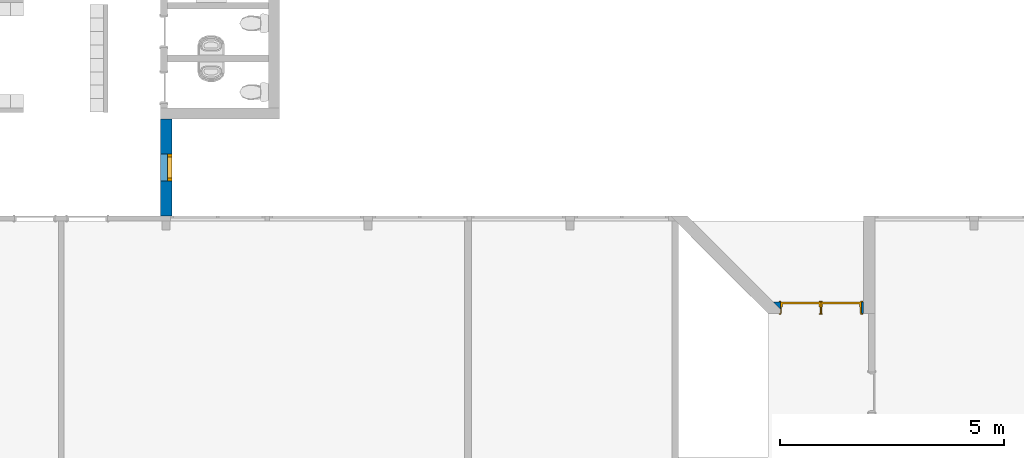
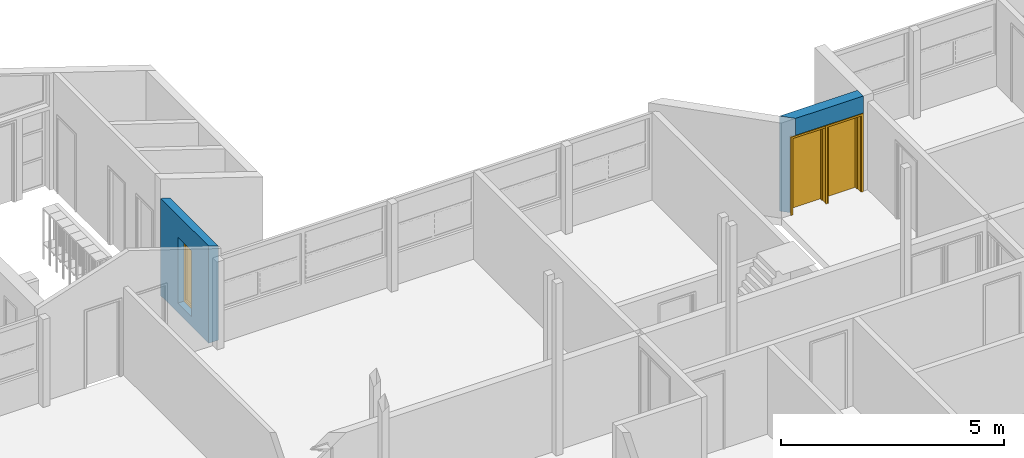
# One storey, part 4 of 48: 2 doors, 2 walls, 1 window, 3 openings.
"""IFC2X3 building model written with IfcOpenShell, lengths in millimetres."""

from ifc_helpers import new_model, entity, si_unit, converted_unit, derived_unit, money_unit, direction, frame, origin_with_axes, place, context, subcontext, project, spatial, open_shell, faceted_brep, surface_model, source, transform, mapped, material, type_object, element, fill, save


model = new_model("IFC2X3")

# Units and contexts
model_context = context("Model", 3, precision=0.01, world=origin_with_axes(), true_north=direction((0.0, 1.0)))
body_context = subcontext(model_context, "Body", "Model", "MODEL_VIEW")
ifc_project = project(units=[si_unit("LENGTHUNIT", "METRE", prefix="MILLI"), si_unit("AREAUNIT", "SQUARE_METRE"), si_unit("VOLUMEUNIT", "CUBIC_METRE"), converted_unit("PLANEANGLEUNIT", "DEGREE", entity("IfcPlaneAngleMeasure", 0.0174532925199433), si_unit("PLANEANGLEUNIT", "RADIAN"), dimensions=[0, 0, 0, 0, 0, 0, 0]), money_unit("USD"), converted_unit("TIMEUNIT", "Year", entity("IfcTimeMeasure", 31557600.0), si_unit("TIMEUNIT", "SECOND"), dimensions=[0, 0, 1, 0, 0, 0, 0]), si_unit("MASSUNIT", "GRAM", prefix="KILO"), si_unit("THERMODYNAMICTEMPERATUREUNIT", "DEGREE_CELSIUS"), si_unit("LUMINOUSINTENSITYUNIT", "LUMEN"), si_unit("ENERGYUNIT", "JOULE", prefix="MEGA"), derived_unit("THERMALCONDUCTANCEUNIT", [(si_unit("POWERUNIT", "WATT"), 1), (si_unit("LENGTHUNIT", "METRE"), -1), (si_unit("THERMODYNAMICTEMPERATUREUNIT", "KELVIN"), -1)]), derived_unit("SPECIFICHEATCAPACITYUNIT", [(si_unit("ENERGYUNIT", "JOULE"), 1), (si_unit("MASSUNIT", "GRAM", prefix="KILO"), -1), (si_unit("THERMODYNAMICTEMPERATUREUNIT", "KELVIN"), -1)]), derived_unit("MASSDENSITYUNIT", [(si_unit("MASSUNIT", "GRAM", prefix="KILO"), 1), (si_unit("VOLUMEUNIT", "CUBIC_METRE"), -1)])], contexts=[model_context])

# Site, building, storey
site_placement = place(None, origin_with_axes())
site = spatial("IfcSite", under=ifc_project, at=site_placement, Name="Site", CompositionType="ELEMENT")
building_placement = place(site_placement, origin_with_axes())
building = spatial("IfcBuilding", under=site, at=building_placement, Name="Building", CompositionType="ELEMENT")
storey_placement = place(building_placement, frame((0.0, 0.0, 3300.0), z_axis=(0.0, 0.0, 1.0), x_axis=(1.0, 0.0, 0.0)))
storey = spatial("IfcBuildingStorey", under=building, at=storey_placement, Name="1 ETG", CompositionType="ELEMENT", Elevation=3300.0)

# Wall, openings, doors
ifc_material_1 = material(Name="GENERIC - STRUCTURAL")
wall_type_1 = type_object("IfcWallType", Name="GENERIC - STRUCTURAL 260", PredefinedType="NOTDEFINED")
wall_1_placement = place(storey_placement, frame((24540.26664685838, 19998.63460103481, 0.0), z_axis=(0.0, 0.0, 1.0), x_axis=(-1.0, 0.0, 0.0)))
wall_1 = element("IfcWall", 1, at=wall_1_placement, inside=storey, type_object=wall_type_1, material=ifc_material_1, Name="SW - 001", context=body_context, shape_type="Brep", body=[
    faceted_brep([(947.9758318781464, 260.0000000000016, 2100.0), (947.9758318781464, 0.0, 2100.0), (47.9758318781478, 0.0, 2100.0), (47.9758318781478, 260.0000000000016, 2100.0), (1847.975831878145, 0.0, 2100.0), (1754.417789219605, 260.0000000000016, 2100.0), (1847.975831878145, 166.4419573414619, 2100.0), (1847.975831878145, 0.0, 0.0), (2014.417789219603, 0.0, 0.0), (2014.417789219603, 0.0, 2600.0), (0.0, 0.0, 2600.0), (0.0, 0.0, 0.0), (47.9758318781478, 0.0, 0.0), (47.9758318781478, 260.0000000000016, 0.0), (0.0004341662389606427, 260.0000000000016, 0.0), (0.0004341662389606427, 260.0000000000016, 2600.0), (1754.417789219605, 260.0000000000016, 2600.0), (1847.975831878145, 166.4419573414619, 0.0)], [[[0, 1, 2, 3]], [[4, 1, 0, 5, 6]], [[4, 7, 8, 9, 10, 11, 12, 2, 1]], [[3, 2, 12, 13]], [[5, 0, 3, 13, 14, 15, 16]], [[6, 5, 16, 9, 8, 17]], [[7, 4, 6, 17]], [[7, 17, 8]], [[9, 16, 15, 10]], [[15, 14, 11, 10]], [[14, 13, 12, 11]]]),
])
opening_1_placement = place(wall_1_placement, frame((1397.975831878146, 0.0, 0.0), z_axis=(0.0, 0.0, 1.0), x_axis=(1.0, 0.0, 0.0)))
opening_1 = element("IfcOpeningElement", 2, at=opening_1_placement, cuts=wall_1, Name="DOO - 002", context=body_context, shape_type="Brep", body=[
    faceted_brep([(449.9999999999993, -1.000000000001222, 2100.0), (-449.9999999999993, -1.000000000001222, 2100.0), (-449.9999999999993, -1.000000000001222, 0.0), (449.9999999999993, -1.000000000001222, 0.0), (486.9999999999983, -1.000000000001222, 0.0), (486.9999999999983, -1.000000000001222, 2137.0), (-486.9999999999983, -1.000000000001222, 2137.0), (-486.9999999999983, -1.000000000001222, 0.0), (449.9999999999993, 0.0, 0.0), (-449.9999999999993, 0.0, 0.0), (-449.9999999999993, 260.0000000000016, 0.0), (-449.9999999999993, 261.0000000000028, 0.0), (449.9999999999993, 261.0000000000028, 0.0), (449.9999999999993, 260.0000000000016, 0.0), (486.9999999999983, 0.0, 0.0), (486.9999999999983, 0.0, 2137.0), (-486.9999999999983, 0.0, 2137.0), (-486.9999999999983, 0.0, 0.0), (-449.9999999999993, 0.0, 2100.0), (-449.9999999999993, 260.0000000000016, 2100.0), (-486.9999999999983, 260.0000000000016, 0.0), (-486.9999999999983, 261.0000000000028, 0.0), (-486.9999999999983, 261.0000000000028, 2137.0), (486.9999999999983, 261.0000000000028, 2137.0), (486.9999999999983, 261.0000000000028, 0.0), (486.9999999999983, 260.0000000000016, 0.0), (449.9999999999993, 0.0, 2100.0), (449.9999999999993, 260.0000000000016, 2100.0), (486.9999999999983, 260.0000000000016, 2137.0), (-486.9999999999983, 260.0000000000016, 2137.0)], [[[0, 1, 2, 3]], [[2, 1, 0, 3, 4, 5, 6, 7]], [[8, 3, 2, 9, 10, 11, 12, 13]], [[3, 8, 14, 4]], [[14, 15, 5, 4]], [[15, 16, 6, 5]], [[16, 17, 7, 6]], [[9, 2, 7, 17]], [[9, 18, 19, 10]], [[11, 10, 20, 21]], [[12, 11, 21, 22, 23, 24]], [[13, 12, 24, 25]], [[26, 8, 13, 27]], [[26, 18, 9, 17, 16, 15, 14, 8]], [[18, 26, 27, 19]], [[10, 19, 27, 13, 25, 28, 29, 20]], [[20, 29, 22, 21]], [[29, 28, 23, 22]], [[28, 25, 24, 23]]]),
])
opening_2_placement = place(wall_1_placement, frame((497.9758318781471, 0.0, 0.0), z_axis=(0.0, 0.0, 1.0), x_axis=(1.0, 0.0, 0.0)))
opening_2 = element("IfcOpeningElement", 3, at=opening_2_placement, cuts=wall_1, Name="DOO - 002", context=body_context, shape_type="Brep", body=[
    faceted_brep([(449.9999999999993, -1.000000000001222, 2100.0), (-449.9999999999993, -1.000000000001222, 2100.0), (-449.9999999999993, -1.000000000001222, 0.0), (449.9999999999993, -1.000000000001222, 0.0), (486.9999999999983, -1.000000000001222, 0.0), (486.9999999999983, -1.000000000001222, 2137.0), (-486.9999999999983, -1.000000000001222, 2137.0), (-486.9999999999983, -1.000000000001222, 0.0), (449.9999999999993, 0.0, 0.0), (-449.9999999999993, 0.0, 0.0), (-449.9999999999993, 260.0000000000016, 0.0), (-449.9999999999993, 261.0000000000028, 0.0), (449.9999999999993, 261.0000000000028, 0.0), (449.9999999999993, 260.0000000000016, 0.0), (486.9999999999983, 0.0, 0.0), (486.9999999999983, 0.0, 2137.0), (-486.9999999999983, 0.0, 2137.0), (-486.9999999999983, 0.0, 0.0), (-449.9999999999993, 0.0, 2100.0), (-449.9999999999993, 260.0000000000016, 2100.0), (-486.9999999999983, 260.0000000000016, 0.0), (-486.9999999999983, 261.0000000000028, 0.0), (-486.9999999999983, 261.0000000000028, 2137.0), (486.9999999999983, 261.0000000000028, 2137.0), (486.9999999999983, 261.0000000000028, 0.0), (486.9999999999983, 260.0000000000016, 0.0), (449.9999999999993, 0.0, 2100.0), (449.9999999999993, 260.0000000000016, 2100.0), (486.9999999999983, 260.0000000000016, 2137.0), (-486.9999999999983, 260.0000000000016, 2137.0)], [[[0, 1, 2, 3]], [[2, 1, 0, 3, 4, 5, 6, 7]], [[8, 3, 2, 9, 10, 11, 12, 13]], [[3, 8, 14, 4]], [[14, 15, 5, 4]], [[15, 16, 6, 5]], [[16, 17, 7, 6]], [[9, 2, 7, 17]], [[9, 18, 19, 10]], [[11, 10, 20, 21]], [[12, 11, 21, 22, 23, 24]], [[13, 12, 24, 25]], [[26, 8, 13, 27]], [[26, 18, 9, 17, 16, 15, 14, 8]], [[18, 26, 27, 19]], [[10, 19, 27, 13, 25, 28, 29, 20]], [[20, 29, 22, 21]], [[29, 28, 23, 22]], [[28, 25, 24, 23]]]),
])
door_style_1 = type_object("IfcDoorStyle", Name="Dør", ConstructionType="NOTDEFINED", OperationType="SINGLE_SWING_RIGHT", ParameterTakesPrecedence=False, Sizeable=False)
shared_shape_1 = source(origin_with_axes(), body_context, "Body", "Brep", [
    faceted_brep([(-450.0, -115.0, 0.0), (-425.0, -115.0, 0.0), (-425.0, -260.0, 0.0), (-450.0, -260.0, 0.0), (-450.0, -115.0000000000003, 2100.0), (-425.0, -115.0000000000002, 2075.0), (-425.0, -260.0000000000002, 2075.0), (-450.0, -260.0000000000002, 2100.0)], [[[0, 1, 2, 3]], [[0, 4, 5, 1]], [[1, 5, 6, 2]], [[3, 2, 6, 7]], [[4, 0, 3, 7]], [[5, 4, 7, 6]]]),
    faceted_brep([(450.0, -115.0000000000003, 2100.0), (425.0, -115.0000000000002, 2075.0), (425.0, -260.0000000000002, 2075.0), (450.0, -260.0000000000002, 2100.0), (450.0, -115.0, 0.0), (425.0, -115.0, 0.0), (425.0, -260.0, 0.0), (450.0, -260.0, 0.0)], [[[0, 1, 2, 3]], [[0, 4, 5, 1]], [[1, 5, 6, 2]], [[3, 2, 6, 7]], [[4, 0, 3, 7]], [[5, 4, 7, 6]]]),
    faceted_brep([(-425.0, -115.0000000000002, 2075.0), (425.0, -115.0000000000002, 2075.0), (425.0, -260.0000000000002, 2075.0), (-425.0, -260.0000000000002, 2075.0), (-450.0, -115.0000000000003, 2100.0), (450.0, -115.0000000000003, 2100.0), (450.0, -260.0000000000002, 2100.0), (-450.0, -260.0000000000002, 2100.0)], [[[0, 1, 2, 3]], [[0, 4, 5, 1]], [[1, 5, 6, 2]], [[3, 2, 6, 7]], [[4, 0, 3, 7]], [[5, 4, 7, 6]]]),
    faceted_brep([(-487.0, -279.0, 0.0), (-487.0, -260.0, 0.0), (-437.0, -260.0, 0.0), (-437.0, -279.0, 0.0), (-487.0, -279.0000000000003, 2137.0), (-487.0, -260.0000000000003, 2137.0), (-437.0, -260.0000000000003, 2087.0), (-437.0, -279.0000000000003, 2087.0)], [[[0, 1, 2, 3]], [[4, 5, 1, 0]], [[1, 5, 6, 2]], [[3, 2, 6, 7]], [[0, 3, 7, 4]], [[7, 6, 5, 4]]]),
    faceted_brep([(487.0, -279.0000000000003, 2137.0), (487.0, -260.0000000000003, 2137.0), (437.0, -260.0000000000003, 2087.0), (437.0, -279.0000000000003, 2087.0), (487.0, -279.0, 0.0), (487.0, -260.0, 0.0), (437.0, -260.0, 0.0), (437.0, -279.0, 0.0)], [[[0, 1, 2, 3]], [[4, 5, 1, 0]], [[1, 5, 6, 2]], [[3, 2, 6, 7]], [[0, 3, 7, 4]], [[7, 6, 5, 4]]]),
    faceted_brep([(-487.0, -279.0000000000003, 2137.0), (-487.0, -260.0000000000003, 2137.0), (-437.0, -260.0000000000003, 2087.0), (-437.0, -279.0000000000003, 2087.0), (487.0, -279.0000000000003, 2137.0), (487.0, -260.0000000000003, 2137.0), (437.0, -260.0000000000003, 2087.0), (437.0, -279.0000000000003, 2087.0)], [[[0, 1, 2, 3]], [[4, 5, 1, 0]], [[1, 5, 6, 2]], [[3, 2, 6, 7]], [[0, 3, 7, 4]], [[7, 6, 5, 4]]]),
    faceted_brep([(-487.0, 19.0, 0.0), (-437.0, 19.0, 0.0), (-437.0, 0.0, 0.0), (-487.0, 0.0, 0.0), (-487.0, 18.99999999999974, 2137.0), (-437.0, 18.99999999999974, 2087.0), (-437.0, 0.0, 2087.0), (-487.0, 0.0, 2137.0)], [[[0, 1, 2, 3]], [[0, 4, 5, 1]], [[1, 5, 6, 2]], [[3, 2, 6, 7]], [[4, 0, 3, 7]], [[5, 4, 7, 6]]]),
    faceted_brep([(487.0, 18.99999999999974, 2137.0), (437.0, 18.99999999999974, 2087.0), (437.0, 0.0, 2087.0), (487.0, 0.0, 2137.0), (487.0, 19.0, 0.0), (437.0, 19.0, 0.0), (437.0, 0.0, 0.0), (487.0, 0.0, 0.0)], [[[0, 1, 2, 3]], [[0, 4, 5, 1]], [[1, 5, 6, 2]], [[3, 2, 6, 7]], [[4, 0, 3, 7]], [[5, 4, 7, 6]]]),
    faceted_brep([(-487.0, 18.99999999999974, 2137.0), (-437.0, 18.99999999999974, 2087.0), (-437.0, 0.0, 2087.0), (-487.0, 0.0, 2137.0), (487.0, 18.99999999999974, 2137.0), (437.0, 18.99999999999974, 2087.0), (437.0, 0.0, 2087.0), (487.0, 0.0, 2137.0)], [[[0, 1, 2, 3]], [[0, 4, 5, 1]], [[1, 5, 6, 2]], [[3, 2, 6, 7]], [[4, 0, 3, 7]], [[5, 4, 7, 6]]]),
    faceted_brep([(-450.0, 0.0, 0.0), (-410.0000000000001, 0.0, 0.0), (-410.0000000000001, -115.0, 0.0), (-450.0, -115.0, 0.0), (-450.0, 0.0, 2060.0), (-410.0000000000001, 0.0, 2060.0), (-410.0000000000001, -115.0, 2060.0), (-450.0, -115.0, 2060.0)], [[[0, 1, 2, 3]], [[0, 4, 5, 1]], [[1, 5, 6, 2]], [[3, 2, 6, 7]], [[4, 0, 3, 7]], [[5, 4, 7, 6]]]),
    faceted_brep([(450.0, 0.0, 0.0), (450.0, 0.0, 2060.0), (450.0, -115.0, 2060.0), (450.0, -115.0, 0.0), (410.0000000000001, 0.0, 0.0), (410.0000000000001, 0.0, 2060.0), (410.0000000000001, -115.0, 2060.0), (410.0000000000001, -115.0, 0.0)], [[[0, 1, 2, 3]], [[0, 4, 5, 1]], [[1, 5, 6, 2]], [[3, 2, 6, 7]], [[4, 0, 3, 7]], [[5, 4, 7, 6]]]),
    faceted_brep([(-450.0, 0.0, 2100.0), (-450.0, 0.0, 2060.0), (-450.0, -115.0, 2060.0), (-450.0, -115.0, 2100.0), (450.0, 0.0, 2100.0), (450.0, 0.0, 2060.0), (410.0000000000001, 0.0, 2060.0), (-410.0000000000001, 0.0, 2060.0), (-410.0000000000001, -115.0, 2060.0), (410.0000000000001, -115.0, 2060.0), (450.0, -115.0, 2060.0), (450.0, -115.0, 2100.0)], [[[0, 1, 2, 3]], [[0, 4, 5, 6, 7, 1]], [[1, 7, 8, 2]], [[3, 2, 8, 9, 10, 11]], [[4, 0, 3, 11]], [[5, 4, 11, 10]], [[6, 5, 10, 9]], [[7, 6, 9, 8]]]),
    faceted_brep([(409.9999999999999, 0.0, 0.0), (409.9999999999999, -40.0, 0.0), (-410.0000000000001, -40.0, 0.0), (-410.0000000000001, 0.0, 0.0), (409.9999999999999, 0.0, 2060.0), (409.9999999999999, -40.00000000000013, 2060.0), (-410.0000000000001, -40.00000000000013, 2060.0), (-410.0000000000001, 0.0, 2060.0)], [[[0, 1, 2, 3]], [[4, 5, 1, 0]], [[1, 5, 6, 2]], [[3, 2, 6, 7]], [[0, 3, 7, 4]], [[7, 6, 5, 4]]]),
])
door_1_placement = place(opening_2_placement, frame((449.9999999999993, 0.0, 0.0), z_axis=(0.0, 0.0, 1.0), x_axis=(-1.0, 0.0, 0.0)))
door_1 = element("IfcDoor", 4, at=door_1_placement, inside=storey, type_object=door_style_1, Name="DOO - 002", ObjectType="DOOR", OverallHeight=2100.0, OverallWidth=900.0, context=body_context, shape_type="MappedRepresentation", body=[
    mapped(shared_shape_1, transform((449.9999999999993, 0.0, 0.0))),
])
fill(opening_2, door_1)
door_style_2 = type_object("IfcDoorStyle", Name="Dør", ConstructionType="NOTDEFINED", OperationType="SINGLE_SWING_LEFT", ParameterTakesPrecedence=False, Sizeable=False)
shared_shape_2 = source(origin_with_axes(), body_context, "Body", "Brep", [
    faceted_brep([(450.0, -115.0, 0.0), (450.0, -260.0, 0.0), (425.0, -260.0, 0.0), (425.0, -115.0, 0.0), (450.0, -115.0000000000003, 2100.0), (450.0, -260.0000000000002, 2100.0), (425.0, -260.0000000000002, 2075.0), (425.0, -115.0000000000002, 2075.0)], [[[0, 1, 2, 3]], [[4, 5, 1, 0]], [[1, 5, 6, 2]], [[3, 2, 6, 7]], [[0, 3, 7, 4]], [[7, 6, 5, 4]]]),
    faceted_brep([(-450.0, -115.0000000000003, 2100.0), (-450.0, -260.0000000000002, 2100.0), (-425.0, -260.0000000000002, 2075.0), (-425.0, -115.0000000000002, 2075.0), (-450.0, -115.0, 0.0), (-450.0, -260.0, 0.0), (-425.0, -260.0, 0.0), (-425.0, -115.0, 0.0)], [[[0, 1, 2, 3]], [[4, 5, 1, 0]], [[1, 5, 6, 2]], [[3, 2, 6, 7]], [[0, 3, 7, 4]], [[7, 6, 5, 4]]]),
    faceted_brep([(425.0, -115.0000000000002, 2075.0), (425.0, -260.0000000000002, 2075.0), (-425.0, -260.0000000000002, 2075.0), (-425.0, -115.0000000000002, 2075.0), (450.0, -115.0000000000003, 2100.0), (450.0, -260.0000000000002, 2100.0), (-450.0, -260.0000000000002, 2100.0), (-450.0, -115.0000000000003, 2100.0)], [[[0, 1, 2, 3]], [[4, 5, 1, 0]], [[1, 5, 6, 2]], [[3, 2, 6, 7]], [[0, 3, 7, 4]], [[7, 6, 5, 4]]]),
    faceted_brep([(487.0, -279.0, 0.0), (437.0, -279.0, 0.0), (437.0, -260.0, 0.0), (487.0, -260.0, 0.0), (487.0, -279.0000000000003, 2137.0), (437.0, -279.0000000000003, 2087.0), (437.0, -260.0000000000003, 2087.0), (487.0, -260.0000000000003, 2137.0)], [[[0, 1, 2, 3]], [[0, 4, 5, 1]], [[1, 5, 6, 2]], [[3, 2, 6, 7]], [[4, 0, 3, 7]], [[5, 4, 7, 6]]]),
    faceted_brep([(-487.0, -279.0000000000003, 2137.0), (-437.0, -279.0000000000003, 2087.0), (-437.0, -260.0000000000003, 2087.0), (-487.0, -260.0000000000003, 2137.0), (-487.0, -279.0, 0.0), (-437.0, -279.0, 0.0), (-437.0, -260.0, 0.0), (-487.0, -260.0, 0.0)], [[[0, 1, 2, 3]], [[0, 4, 5, 1]], [[1, 5, 6, 2]], [[3, 2, 6, 7]], [[4, 0, 3, 7]], [[5, 4, 7, 6]]]),
    faceted_brep([(487.0, -279.0000000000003, 2137.0), (437.0, -279.0000000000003, 2087.0), (437.0, -260.0000000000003, 2087.0), (487.0, -260.0000000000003, 2137.0), (-487.0, -279.0000000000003, 2137.0), (-437.0, -279.0000000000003, 2087.0), (-437.0, -260.0000000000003, 2087.0), (-487.0, -260.0000000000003, 2137.0)], [[[0, 1, 2, 3]], [[0, 4, 5, 1]], [[1, 5, 6, 2]], [[3, 2, 6, 7]], [[4, 0, 3, 7]], [[5, 4, 7, 6]]]),
    faceted_brep([(487.0, 19.0, 0.0), (487.0, 0.0, 0.0), (437.0, 0.0, 0.0), (437.0, 19.0, 0.0), (487.0, 18.99999999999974, 2137.0), (487.0, 0.0, 2137.0), (437.0, 0.0, 2087.0), (437.0, 18.99999999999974, 2087.0)], [[[0, 1, 2, 3]], [[4, 5, 1, 0]], [[1, 5, 6, 2]], [[3, 2, 6, 7]], [[0, 3, 7, 4]], [[7, 6, 5, 4]]]),
    faceted_brep([(-487.0, 18.99999999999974, 2137.0), (-487.0, 0.0, 2137.0), (-437.0, 0.0, 2087.0), (-437.0, 18.99999999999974, 2087.0), (-487.0, 19.0, 0.0), (-487.0, 0.0, 0.0), (-437.0, 0.0, 0.0), (-437.0, 19.0, 0.0)], [[[0, 1, 2, 3]], [[4, 5, 1, 0]], [[1, 5, 6, 2]], [[3, 2, 6, 7]], [[0, 3, 7, 4]], [[7, 6, 5, 4]]]),
    faceted_brep([(487.0, 18.99999999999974, 2137.0), (487.0, 0.0, 2137.0), (437.0, 0.0, 2087.0), (437.0, 18.99999999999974, 2087.0), (-487.0, 18.99999999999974, 2137.0), (-487.0, 0.0, 2137.0), (-437.0, 0.0, 2087.0), (-437.0, 18.99999999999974, 2087.0)], [[[0, 1, 2, 3]], [[4, 5, 1, 0]], [[1, 5, 6, 2]], [[3, 2, 6, 7]], [[0, 3, 7, 4]], [[7, 6, 5, 4]]]),
    faceted_brep([(450.0, 0.0, 0.0), (450.0, -115.0, 0.0), (410.0000000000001, -115.0, 0.0), (410.0000000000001, 0.0, 0.0), (450.0, 0.0, 2060.0), (450.0, -115.0, 2060.0), (410.0000000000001, -115.0, 2060.0), (410.0000000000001, 0.0, 2060.0)], [[[0, 1, 2, 3]], [[4, 5, 1, 0]], [[1, 5, 6, 2]], [[3, 2, 6, 7]], [[0, 3, 7, 4]], [[7, 6, 5, 4]]]),
    faceted_brep([(-450.0, 0.0, 0.0), (-450.0, -115.0, 0.0), (-450.0, -115.0, 2060.0), (-450.0, 0.0, 2060.0), (-410.0000000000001, 0.0, 0.0), (-410.0000000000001, -115.0, 0.0), (-410.0000000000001, -115.0, 2060.0), (-410.0000000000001, 0.0, 2060.0)], [[[0, 1, 2, 3]], [[4, 5, 1, 0]], [[1, 5, 6, 2]], [[3, 2, 6, 7]], [[0, 3, 7, 4]], [[7, 6, 5, 4]]]),
    faceted_brep([(450.0, 0.0, 2100.0), (450.0, -115.0, 2100.0), (450.0, -115.0, 2060.0), (450.0, 0.0, 2060.0), (-450.0, 0.0, 2100.0), (-450.0, -115.0, 2100.0), (-450.0, -115.0, 2060.0), (-410.0000000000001, -115.0, 2060.0), (410.0000000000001, -115.0, 2060.0), (410.0000000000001, 0.0, 2060.0), (-410.0000000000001, 0.0, 2060.0), (-450.0, 0.0, 2060.0)], [[[0, 1, 2, 3]], [[4, 5, 1, 0]], [[1, 5, 6, 7, 8, 2]], [[3, 2, 8, 9]], [[0, 3, 9, 10, 11, 4]], [[11, 6, 5, 4]], [[10, 7, 6, 11]], [[9, 8, 7, 10]]]),
    faceted_brep([(-409.9999999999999, 0.0, 0.0), (410.0000000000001, 0.0, 0.0), (410.0000000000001, -40.0, 0.0), (-409.9999999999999, -40.0, 0.0), (-409.9999999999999, 0.0, 2060.0), (410.0000000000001, 0.0, 2060.0), (410.0000000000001, -40.00000000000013, 2060.0), (-409.9999999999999, -40.00000000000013, 2060.0)], [[[0, 1, 2, 3]], [[0, 4, 5, 1]], [[1, 5, 6, 2]], [[3, 2, 6, 7]], [[4, 0, 3, 7]], [[5, 4, 7, 6]]]),
])
door_2_placement = place(opening_1_placement, frame((449.9999999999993, 0.0, 0.0), z_axis=(0.0, 0.0, 1.0), x_axis=(-1.0, 0.0, 0.0)))
door_2 = element("IfcDoor", 5, at=door_2_placement, inside=storey, type_object=door_style_2, Name="DOO - 002", ObjectType="DOOR", OverallHeight=2100.0, OverallWidth=900.0, context=body_context, shape_type="MappedRepresentation", body=[
    mapped(shared_shape_2, transform((449.9999999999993, 0.0, 0.0))),
])
fill(opening_1, door_2)

# Wall, opening, window
ifc_material_2 = material(Name="GENERIC - INTERNAL FILLER")
wall_type_2 = type_object("IfcWallType", Name="GENERIC - INTERNAL FILLER 250", PredefinedType="NOTDEFINED")
wall_2_placement = place(storey_placement, frame((9000.002090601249, 24199.73665493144, 0.0), z_axis=(0.0, 0.0, 1.0), x_axis=(-9.170287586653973e-07, -0.9999999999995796, 0.0)))
wall_2 = element("IfcWall", 6, at=wall_2_placement, inside=storey, type_object=wall_type_2, material=ifc_material_2, Name="SW - 001", context=body_context, shape_type="Brep", body=[
    faceted_brep([(2279.755391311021, -125.0, 2658.86965273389), (125.0001146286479, -125.0000000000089, 2658.86901070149), (125.0001146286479, -125.0000000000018, 0.0), (2279.755391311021, -125.0000000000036, 0.0), (1499.757534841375, -125.0000000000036, 265.0187491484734), (899.7575348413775, -125.0000000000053, 265.0187491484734), (899.7575348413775, -125.0000000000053, 2065.018749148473), (1499.757534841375, -125.0000000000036, 2065.018749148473), (2279.755391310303, 125.0007803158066, 2577.639475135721), (124.9998853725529, 124.9988043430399, 2577.639475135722), (124.9998853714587, 125.0, 0.0), (2279.755391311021, 124.9999999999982, 0.0), (1499.757534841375, 125.0, 265.0187491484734), (899.7575348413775, 125.0, 265.0187491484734), (899.7575348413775, 125.0, 2065.018749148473), (1499.757534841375, 125.0, 2065.018749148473)], [[[0, 1, 2, 3], [4, 5, 6, 7]], [[8, 9, 1, 0]], [[1, 9, 10, 2]], [[2, 10, 11, 3]], [[8, 0, 3, 11]], [[12, 13, 5, 4]], [[13, 14, 6, 5]], [[14, 15, 7, 6]], [[15, 12, 4, 7]], [[9, 8, 11, 10], [12, 15, 14, 13]]]),
])
opening_3_placement = place(wall_2_placement, frame((1199.757534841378, 0.0, 265.0187491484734), z_axis=(0.0, 0.0, 1.0), x_axis=(1.0, 0.0, 0.0)))
opening_3 = element("IfcOpeningElement", 7, at=opening_3_placement, cuts=wall_2, Name="WD - 001", context=body_context, shape_type="Brep", body=[
    faceted_brep([(-300.0000000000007, -126.002090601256, 1800.0), (-300.0000000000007, -126.002090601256, 0.0), (299.9999999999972, -126.002090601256, 0.0), (299.9999999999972, -126.002090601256, 1800.0), (-300.0000000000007, 126.002090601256, 1800.0), (-300.0000000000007, 126.002090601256, 0.0), (299.9999999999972, 126.002090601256, 0.0), (299.9999999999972, 126.002090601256, 1800.0)], [[[0, 1, 2, 3]], [[4, 5, 1, 0]], [[5, 6, 2, 1]], [[6, 7, 3, 2]], [[7, 4, 0, 3]], [[6, 5, 4, 7]]]),
])
window_style = type_object("IfcWindowStyle", Name="Vindu", ConstructionType="NOTDEFINED", OperationType="SINGLE_PANEL", ParameterTakesPrecedence=False, Sizeable=False)
shared_shape_3 = source(origin_with_axes(), body_context, "Body", "SurfaceModel", [
    faceted_brep([(234.0, -92.00000000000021, 1734.0), (300.0, -92.00000000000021, 1734.0), (300.0, 0.0, 1734.0), (234.0, 0.0, 1734.0), (234.0, -92.0, 66.0), (300.0, -92.0, 66.0), (300.0, 0.0, 66.0), (234.0, 0.0, 66.0)], [[[0, 1, 2, 3]], [[0, 4, 5, 1]], [[1, 5, 6, 2]], [[3, 2, 6, 7]], [[4, 0, 3, 7]], [[5, 4, 7, 6]]]),
    faceted_brep([(-234.0, -92.0, 66.0), (-300.0, -92.0, 66.0), (-300.0, 0.0, 66.0), (-234.0, 0.0, 66.0), (-234.0, -92.00000000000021, 1734.0), (-300.0, -92.00000000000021, 1734.0), (-300.0, 0.0, 1734.0), (-234.0, 0.0, 1734.0)], [[[0, 1, 2, 3]], [[0, 4, 5, 1]], [[1, 5, 6, 2]], [[3, 2, 6, 7]], [[4, 0, 3, 7]], [[5, 4, 7, 6]]]),
    faceted_brep([(234.0, -92.0, 66.0), (300.0, -92.0, 66.0), (300.0, 0.0, 66.0), (234.0, 0.0, 66.0), (-234.0, -92.0, 66.0), (-300.0, -92.0, 66.0), (-300.0, -92.0, 0.0), (300.0, -92.0, 0.0), (300.0, 0.0, 0.0), (-300.0, 0.0, 0.0), (-300.0, 0.0, 66.0), (-234.0, 0.0, 66.0)], [[[0, 1, 2, 3]], [[0, 4, 5, 6, 7, 1]], [[1, 7, 8, 2]], [[3, 2, 8, 9, 10, 11]], [[4, 0, 3, 11]], [[5, 4, 11, 10]], [[6, 5, 10, 9]], [[7, 6, 9, 8]]]),
    faceted_brep([(-234.0, -92.00000000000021, 1734.0), (-300.0, -92.00000000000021, 1734.0), (-300.0, 0.0, 1734.0), (-234.0, 0.0, 1734.0), (234.0, -92.00000000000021, 1734.0), (300.0, -92.00000000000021, 1734.0), (300.0, -92.00000000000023, 1800.0), (-300.0, -92.00000000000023, 1800.0), (-300.0, 0.0, 1800.0), (300.0, 0.0, 1800.0), (300.0, 0.0, 1734.0), (234.0, 0.0, 1734.0)], [[[0, 1, 2, 3]], [[0, 4, 5, 6, 7, 1]], [[1, 7, 8, 2]], [[3, 2, 8, 9, 10, 11]], [[4, 0, 3, 11]], [[5, 4, 11, 10]], [[6, 5, 10, 9]], [[7, 6, 9, 8]]]),
    surface_model("IfcShellBasedSurfaceModel", [(234.0, -56.0, 66.0), (234.0, -56.0000000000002, 1734.0), (-234.0, -56.0000000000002, 1734.0), (-234.0, -56.0, 66.0)], [open_shell([[[0, 1, 2, 3]]])]),
    surface_model("IfcShellBasedSurfaceModel", [(234.0, -36.00000000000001, 66.0), (-234.0, -36.00000000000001, 66.0), (-234.0, -36.00000000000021, 1734.0), (234.0, -36.00000000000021, 1734.0)], [open_shell([[[0, 1, 2, 3]]])]),
])
window_placement = place(opening_3_placement, frame((-300.0000000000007, 0.0, 0.0), z_axis=(0.0, 0.0, 1.0), x_axis=(1.0, 0.0, 0.0)))
window = element("IfcWindow", 8, at=window_placement, inside=storey, type_object=window_style, Name="WD - 001", ObjectType="WINDOW", OverallHeight=1800.0, OverallWidth=600.0, context=body_context, shape_type="MappedRepresentation", body=[
    mapped(shared_shape_3, transform((300.0000000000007, 125.0, 0.0))),
])
fill(opening_3, window)

save(model, "model.ifc")
